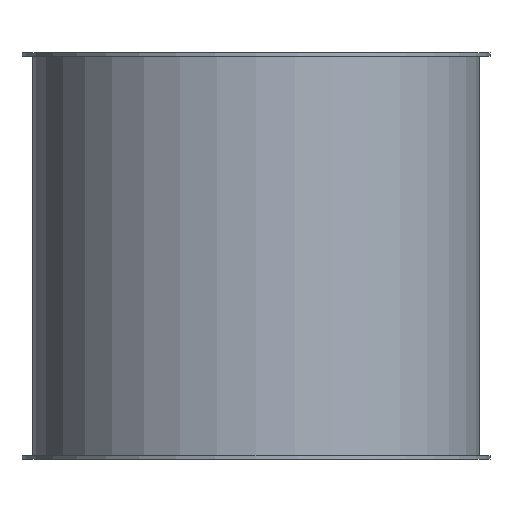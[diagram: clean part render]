
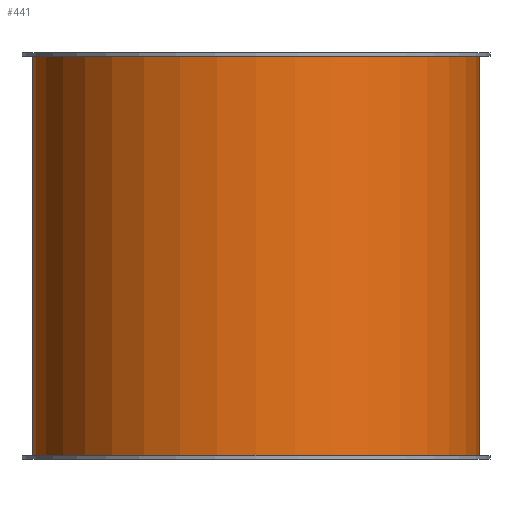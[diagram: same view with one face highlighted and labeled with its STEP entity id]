
A CAD part, front view. The second image highlights one B-rep face of the part: STEP entity #441.
In plain terms, the highlighted cylindrical face has radius 126.5 mm (diameter 253 mm), a full revolution.
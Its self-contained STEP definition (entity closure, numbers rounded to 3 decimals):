
#152=CARTESIAN_POINT('',(126.5,0.,228.0));
#153=VERTEX_POINT('',#152);
#154=CARTESIAN_POINT('',(0.0,0.0,228.0));
#155=DIRECTION('',(0.0,0.0,-1.0));
#156=DIRECTION('',(-1.0,0.0,0.0));
#157=AXIS2_PLACEMENT_3D('',#154,#155,#156);
#158=CIRCLE('',#157,126.5);
#159=EDGE_CURVE('',#153,#153,#158,.T.);
#200=CARTESIAN_POINT('',(-126.5,0.,2.0));
#201=VERTEX_POINT('',#200);
#202=CARTESIAN_POINT('',(0.0,0.0,2.0));
#203=DIRECTION('',(0.0,0.0,1.0));
#204=DIRECTION('',(-1.0,0.0,0.0));
#205=AXIS2_PLACEMENT_3D('',#202,#203,#204);
#206=CIRCLE('',#205,126.5);
#207=EDGE_CURVE('',#201,#201,#206,.T.);
#341=CARTESIAN_POINT('',(-76.5,100.747,115.));
#342=VERTEX_POINT('',#341);
#343=CARTESIAN_POINT('',(-76.5,100.747,115.));
#344=CARTESIAN_POINT('',(-76.5,100.747,110.026));
#345=CARTESIAN_POINT('',(-76.008,101.127,104.947));
#346=CARTESIAN_POINT('',(-74.002,102.604,94.952));
#347=CARTESIAN_POINT('',(-72.49,103.697,90.036));
#348=CARTESIAN_POINT('',(-68.556,106.339,80.676));
#349=CARTESIAN_POINT('',(-66.13,107.886,76.223));
#350=CARTESIAN_POINT('',(-60.568,111.104,68.006));
#351=CARTESIAN_POINT('',(-57.429,112.773,64.242));
#352=CARTESIAN_POINT('',(-50.78,115.918,57.593));
#353=CARTESIAN_POINT('',(-47.028,117.515,54.458));
#354=CARTESIAN_POINT('',(-38.808,120.479,48.888));
#355=CARTESIAN_POINT('',(-34.34,121.846,46.451));
#356=CARTESIAN_POINT('',(-24.948,124.11,42.503));
#357=CARTESIAN_POINT('',(-20.014,125.008,40.988));
#358=CARTESIAN_POINT('',(-10.01,126.204,38.986));
#359=CARTESIAN_POINT('',(-4.941,126.5,38.5));
#360=CARTESIAN_POINT('',(4.941,126.5,38.5));
#361=CARTESIAN_POINT('',(10.01,126.204,38.986));
#362=CARTESIAN_POINT('',(20.014,125.008,40.988));
#363=CARTESIAN_POINT('',(24.948,124.11,42.503));
#364=CARTESIAN_POINT('',(34.34,121.846,46.451));
#365=CARTESIAN_POINT('',(38.808,120.479,48.888));
#366=CARTESIAN_POINT('',(47.028,117.515,54.458));
#367=CARTESIAN_POINT('',(50.78,115.918,57.593));
#368=CARTESIAN_POINT('',(57.429,112.773,64.242));
#369=CARTESIAN_POINT('',(60.568,111.104,68.006));
#370=CARTESIAN_POINT('',(66.13,107.886,76.223));
#371=CARTESIAN_POINT('',(68.556,106.339,80.676));
#372=CARTESIAN_POINT('',(72.49,103.697,90.036));
#373=CARTESIAN_POINT('',(74.002,102.604,94.952));
#374=CARTESIAN_POINT('',(76.008,101.127,104.947));
#375=CARTESIAN_POINT('',(76.5,100.747,110.026));
#376=CARTESIAN_POINT('',(76.5,100.747,119.974));
#377=CARTESIAN_POINT('',(76.008,101.127,125.053));
#378=CARTESIAN_POINT('',(74.002,102.604,135.048));
#379=CARTESIAN_POINT('',(72.49,103.697,139.964));
#380=CARTESIAN_POINT('',(68.556,106.339,149.324));
#381=CARTESIAN_POINT('',(66.13,107.886,153.777));
#382=CARTESIAN_POINT('',(60.568,111.104,161.994));
#383=CARTESIAN_POINT('',(57.429,112.773,165.758));
#384=CARTESIAN_POINT('',(50.78,115.918,172.407));
#385=CARTESIAN_POINT('',(47.028,117.515,175.542));
#386=CARTESIAN_POINT('',(38.808,120.479,181.112));
#387=CARTESIAN_POINT('',(34.34,121.846,183.549));
#388=CARTESIAN_POINT('',(24.948,124.11,187.497));
#389=CARTESIAN_POINT('',(20.014,125.008,189.012));
#390=CARTESIAN_POINT('',(10.01,126.204,191.014));
#391=CARTESIAN_POINT('',(4.941,126.5,191.5));
#392=CARTESIAN_POINT('',(-4.941,126.5,191.5));
#393=CARTESIAN_POINT('',(-10.01,126.204,191.014));
#394=CARTESIAN_POINT('',(-20.014,125.008,189.012));
#395=CARTESIAN_POINT('',(-24.948,124.11,187.497));
#396=CARTESIAN_POINT('',(-34.34,121.846,183.549));
#397=CARTESIAN_POINT('',(-38.808,120.479,181.112));
#398=CARTESIAN_POINT('',(-47.028,117.515,175.542));
#399=CARTESIAN_POINT('',(-50.78,115.918,172.407));
#400=CARTESIAN_POINT('',(-57.429,112.773,165.758));
#401=CARTESIAN_POINT('',(-60.568,111.104,161.994));
#402=CARTESIAN_POINT('',(-66.13,107.886,153.777));
#403=CARTESIAN_POINT('',(-68.556,106.339,149.324));
#404=CARTESIAN_POINT('',(-72.49,103.697,139.964));
#405=CARTESIAN_POINT('',(-74.002,102.604,135.048));
#406=CARTESIAN_POINT('',(-76.008,101.127,125.053));
#407=CARTESIAN_POINT('',(-76.5,100.747,119.974));
#408=CARTESIAN_POINT('',(-76.5,100.747,115.0));
#409=B_SPLINE_CURVE_WITH_KNOTS('',3,(#343,#344,#345,#346,#347,#348,#349,#350,#351,#352,#353,#354,#355,#356,#357,#358,#359,#360,#361,#362,#363,#364,#365,#366,#367,#368,#369,#370,#371,#372,#373,#374,#375,#376,#377,#378,#379,#380,#381,#382,#383,#384,#385,#386,#387,#388,#389,#390,#391,#392,#393,#394,#395,#396,#397,#398,#399,#400,#401,#402,#403,#404,#405,#406,#407,#408),.UNSPECIFIED.,.T.,.U.,(4,2,2,2,2,2,2,2,2,2,2,2,2,2,2,2,2,2,2,2,2,2,2,2,2,2,2,2,2,2,2,2,4),(0.0,1.492,2.985,4.477,5.969,7.452,8.934,10.416,11.899,13.381,14.863,16.346,17.828,19.32,20.813,22.305,23.797,25.29,26.782,28.274,29.767,31.249,32.731,34.214,35.696,37.178,38.661,40.143,41.625,43.118,44.61,46.102,47.595),.UNSPECIFIED.);
#410=EDGE_CURVE('',#342,#342,#409,.T.);
#427=CARTESIAN_POINT('',(0.0,0.0,0.0));
#428=DIRECTION('',(0.0,0.0,1.0));
#429=DIRECTION('',(-1.0,0.0,0.0));
#430=AXIS2_PLACEMENT_3D('',#427,#428,#429);
#431=CYLINDRICAL_SURFACE('',#430,126.5);
#432=ORIENTED_EDGE('',*,*,#159,.T.);
#433=EDGE_LOOP('',(#432));
#434=FACE_OUTER_BOUND('',#433,.T.);
#435=ORIENTED_EDGE('',*,*,#207,.T.);
#436=EDGE_LOOP('',(#435));
#437=FACE_BOUND('',#436,.T.);
#438=ORIENTED_EDGE('',*,*,#410,.T.);
#439=EDGE_LOOP('',(#438));
#440=FACE_BOUND('',#439,.T.);
#441=ADVANCED_FACE('',(#434,#437,#440),#431,.T.);
